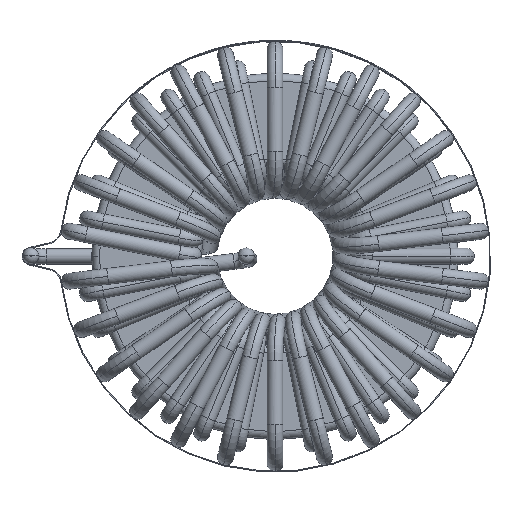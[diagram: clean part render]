
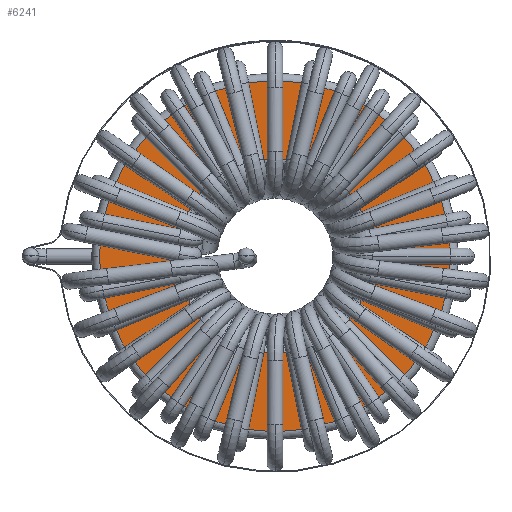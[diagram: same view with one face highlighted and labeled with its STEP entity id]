
A CAD part, top view. The second image highlights one B-rep face of the part: STEP entity #6241.
In plain terms, the highlighted planar face has unit normal (0, 0, 1).
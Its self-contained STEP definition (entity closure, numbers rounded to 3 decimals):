
#1666 = ORIENTED_EDGE ( 'NONE', *, *, #20750, .T. ) ;
#2514 = CARTESIAN_POINT ( 'NONE',  ( 0., 0., 9.45 ) ) ;
#6241 = ADVANCED_FACE ( 'NONE', ( #40895, #39990 ), #48108, .T. ) ;
#12224 = ORIENTED_EDGE ( 'NONE', *, *, #21223, .T. ) ;
#16529 = CARTESIAN_POINT ( 'NONE',  ( 0., 0., 9.45 ) ) ;
#17821 = CARTESIAN_POINT ( 'NONE',  ( 0., 0., 9.45 ) ) ;
#20750 = EDGE_CURVE ( 'NONE', #35970, #48281, #45162, .T. ) ;
#20848 = DIRECTION ( 'NONE',  ( 0., 0., -1. ) ) ;
#21223 = EDGE_CURVE ( 'NONE', #49973, #34226, #38499, .T. ) ;
#22530 = DIRECTION ( 'NONE',  ( 1., 0., 0. ) ) ;
#23953 = DIRECTION ( 'NONE',  ( 0., 0., -1. ) ) ;
#26240 = DIRECTION ( 'NONE',  ( 1., 0., 0. ) ) ;
#27056 = CARTESIAN_POINT ( 'NONE',  ( 12.65, 0., 9.45 ) ) ;
#29262 = EDGE_LOOP ( 'NONE', ( #12224, #36930 ) ) ;
#29838 = DIRECTION ( 'NONE',  ( 1., 0., 0. ) ) ;
#32340 = AXIS2_PLACEMENT_3D ( 'NONE', #16529, #52600, #22530 ) ;
#33020 = EDGE_LOOP ( 'NONE', ( #1666, #52780 ) ) ;
#34226 = VERTEX_POINT ( 'NONE', #50019 ) ;
#35970 = VERTEX_POINT ( 'NONE', #27056 ) ;
#36930 = ORIENTED_EDGE ( 'NONE', *, *, #50996, .T. ) ;
#38499 = CIRCLE ( 'NONE', #65321, 22.8 ) ;
#39990 = FACE_OUTER_BOUND ( 'NONE', #29262, .T. ) ;
#40895 = FACE_BOUND ( 'NONE', #33020, .T. ) ;
#41810 = AXIS2_PLACEMENT_3D ( 'NONE', #59278, #23953, #65782 ) ;
#43817 = DIRECTION ( 'NONE',  ( 0., 0., 1. ) ) ;
#44817 = AXIS2_PLACEMENT_3D ( 'NONE', #17821, #72179, #29838 ) ;
#45162 = CIRCLE ( 'NONE', #45730, 12.65 ) ;
#45730 = AXIS2_PLACEMENT_3D ( 'NONE', #51445, #20848, #57500 ) ;
#47489 = CIRCLE ( 'NONE', #41810, 12.65 ) ;
#48108 = PLANE ( 'NONE',  #44817 ) ;
#48281 = VERTEX_POINT ( 'NONE', #61513 ) ;
#49973 = VERTEX_POINT ( 'NONE', #58819 ) ;
#50019 = CARTESIAN_POINT ( 'NONE',  ( -22.8, 0., 9.45 ) ) ;
#50996 = EDGE_CURVE ( 'NONE', #34226, #49973, #61694, .T. ) ;
#51445 = CARTESIAN_POINT ( 'NONE',  ( 0., 0., 9.45 ) ) ;
#52600 = DIRECTION ( 'NONE',  ( 0., 0., 1. ) ) ;
#52780 = ORIENTED_EDGE ( 'NONE', *, *, #74192, .T. ) ;
#57500 = DIRECTION ( 'NONE',  ( 1., 0., 0. ) ) ;
#58819 = CARTESIAN_POINT ( 'NONE',  ( 22.8, 0., 9.45 ) ) ;
#59278 = CARTESIAN_POINT ( 'NONE',  ( 0., 0., 9.45 ) ) ;
#61513 = CARTESIAN_POINT ( 'NONE',  ( -12.65, 0., 9.45 ) ) ;
#61694 = CIRCLE ( 'NONE', #32340, 22.8 ) ;
#65321 = AXIS2_PLACEMENT_3D ( 'NONE', #2514, #43817, #26240 ) ;
#65782 = DIRECTION ( 'NONE',  ( 1., 0., 0. ) ) ;
#72179 = DIRECTION ( 'NONE',  ( 0., 0., 1. ) ) ;
#74192 = EDGE_CURVE ( 'NONE', #48281, #35970, #47489, .T. ) ;
